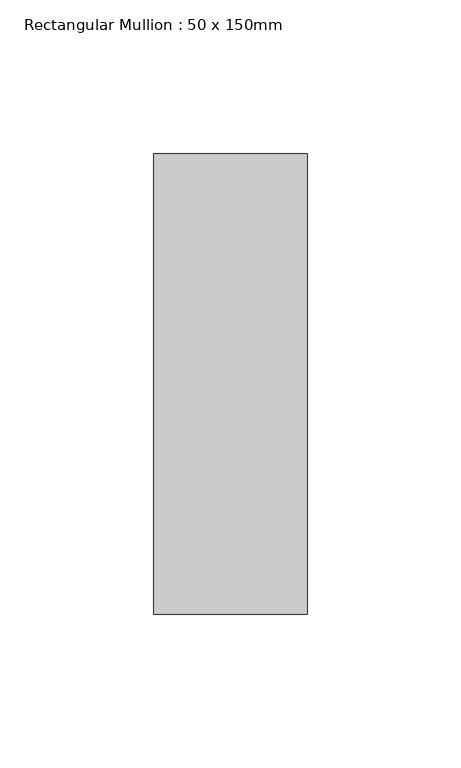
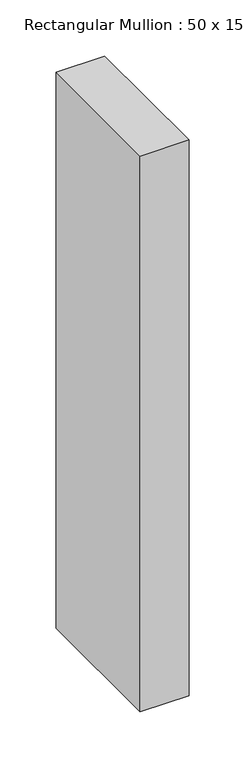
"""IFC4 building model written with IfcOpenShell, lengths in millimetres: member geometry, Rectangular Mullion : 50 x 150mm."""

from ifc_helpers import new_model, si_unit, frame, origin, place, context, project, spatial, polyline, outline, extrude, source, transform, mapped, element, save


def rectangular_mullion_50_x_150mm_ac1718ee(model_context):
    return source(origin(), model_context, "Body", "SweptSolid", [
        extrude(outline(polyline([(0.0, 75.0), (0.0, -75.0), (-50.0, -75.0), (-50.0, 75.0), (0.0, 75.0)])), frame((0.0, 0.0, -603.5829413), z_axis=(0.0, 0.0, 1.0), x_axis=(1.0, 0.0, 0.0)), (0.0, 0.0, 1.0), 603.5829413),
    ])


if __name__ == "__main__":
    model = new_model("IFC4")
    model_context = context("Model", 3, world=origin())
    ifc_project = project(units=[si_unit("LENGTHUNIT", "METRE", prefix="MILLI")], contexts=[model_context])
    site = spatial("IfcSite", under=ifc_project)
    building = spatial("IfcBuilding", under=site)
    placement = place(None, origin())
    rectangular_mullion_50_x_150mm_shape = rectangular_mullion_50_x_150mm_ac1718ee(model_context)
    element("IfcMember", 1, ObjectType="Rectangular Mullion : 50 x 150mm", at=placement, inside=building, context=model_context, shape_type="MappedRepresentation", body=[
        mapped(rectangular_mullion_50_x_150mm_shape, transform((0.0, 0.0, 0.0), x_axis=(1.0, 0.0, 0.0), y_axis=(0.0, 1.0, 0.0), z_axis=(0.0, 0.0, 1.0))),
    ])
    save(model, "model.ifc")
